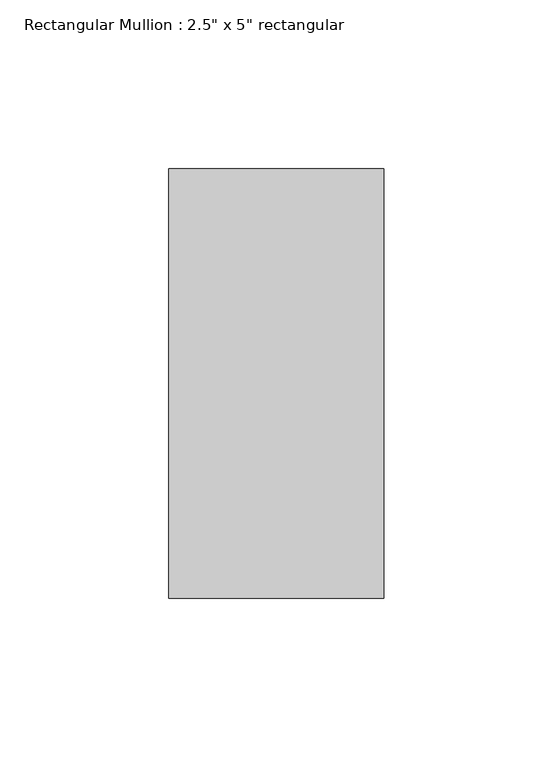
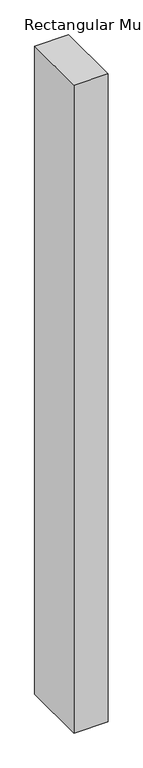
"""IFC4 building model written with IfcOpenShell, lengths in millimetres: member geometry."""

from ifc_helpers import new_model, si_unit, frame, origin, place, context, project, spatial, polyline, outline, extrude, source, transform, mapped, element, save


def member_cba00588(model_context):
    return source(origin(), model_context, "Body", "SweptSolid", [
        extrude(outline(polyline([(0.0, 63.5), (0.0, -63.5), (-63.5, -63.5), (-63.5, 63.5), (0.0, 63.5)])), frame((0.0, 0.0, -1276.35), z_axis=(0.0, 0.0, 1.0), x_axis=(1.0, 0.0, 0.0)), (0.0, 0.0, 1.0), 1276.35),
    ])


if __name__ == "__main__":
    model = new_model("IFC4")
    model_context = context("Model", 3, world=origin())
    ifc_project = project(units=[si_unit("LENGTHUNIT", "METRE", prefix="MILLI")], contexts=[model_context])
    site = spatial("IfcSite", under=ifc_project)
    building = spatial("IfcBuilding", under=site)
    placement = place(None, origin())
    member_shape = member_cba00588(model_context)
    element("IfcMember", 1, ObjectType="Rectangular Mullion : 2.5\" x 5\" rectangular", at=placement, inside=building, context=model_context, shape_type="MappedRepresentation", body=[
        mapped(member_shape, transform((0.0, 0.0, 0.0), x_axis=(1.0, 0.0, 0.0), y_axis=(0.0, 1.0, 0.0), z_axis=(0.0, 0.0, 1.0))),
    ])
    save(model, "model.ifc")
